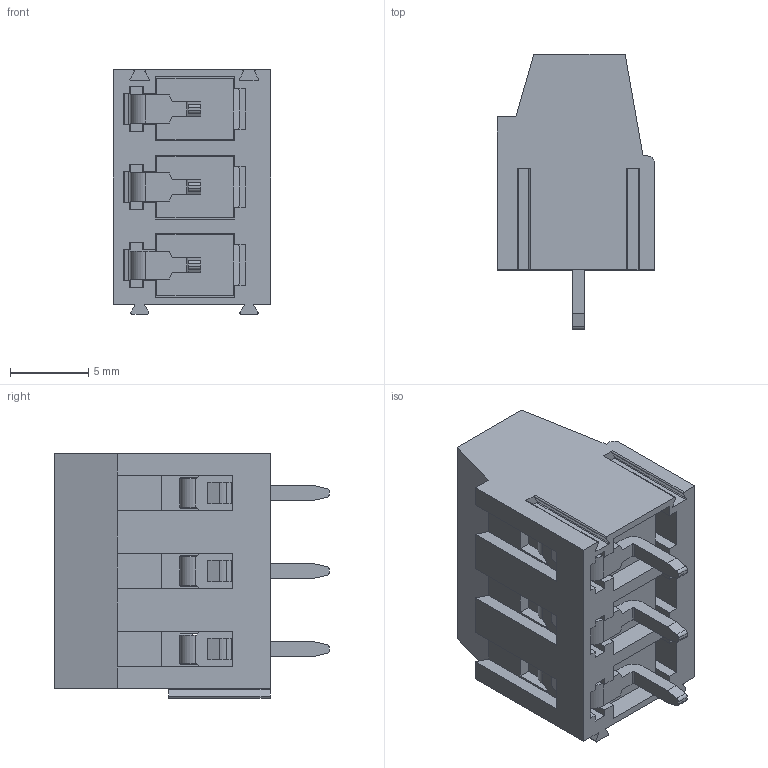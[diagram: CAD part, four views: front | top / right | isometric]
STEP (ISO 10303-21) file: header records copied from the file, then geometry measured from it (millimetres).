
FILE_DESCRIPTION((''),'2;1');
FILE_NAME('PRT0001','2021-04-11T',('guoxue_sz'),(''),'CREO PARAMETRIC BY PTC INC, 2016260','CREO PARAMETRIC BY PTC INC, 2016260','');
FILE_SCHEMA(('CONFIG_CONTROL_DESIGN'));
Length unit declared in the file: metre
Products named in the file (1): PRT0001
Bounding box: 10.1 x 17.6 x 15.64 mm (x, y, z)
Volume: 1257 mm3; surface area: 2850.7 mm2
Topology: 1 solids, 1 shells, 691 faces, 2108 edges, 1398 vertices
Faces by surface type: plane 425, cylinder 206, bspline 30, cone 18, torus 12
Entity records: 37076 total; most frequent: CARTESIAN_POINT 18441, ORIENTED_EDGE 4216, DIRECTION 3457, EDGE_CURVE 2108, VECTOR 1439, LINE 1439, VERTEX_POINT 1398, AXIS2_PLACEMENT_3D 1009
